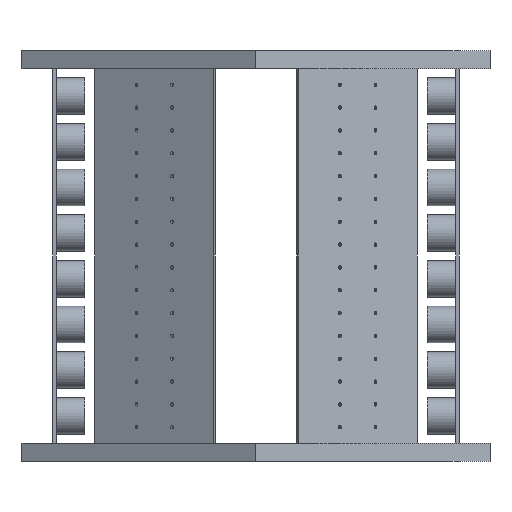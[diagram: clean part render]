
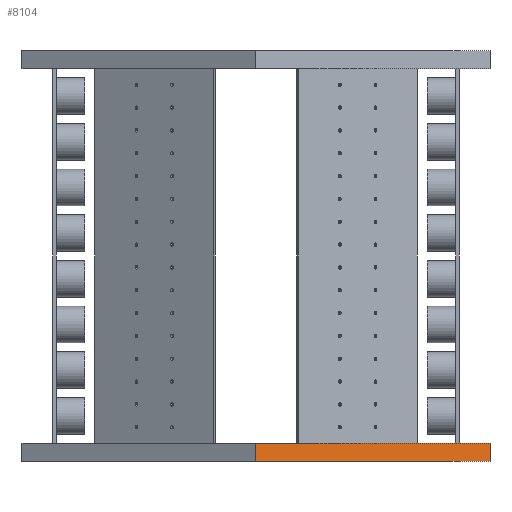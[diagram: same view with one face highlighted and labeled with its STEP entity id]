
A CAD part, front view. The second image highlights one B-rep face of the part: STEP entity #8104.
In plain terms, the highlighted planar face has unit normal (0.5, -0.866, 0).
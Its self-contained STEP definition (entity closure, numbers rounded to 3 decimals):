
#6270 = PLANE('',#6271);
#6271 = AXIS2_PLACEMENT_3D('',#6272,#6273,#6274);
#6272 = CARTESIAN_POINT('',(102.5,-59.178,0.));
#6273 = DIRECTION('',(-1.,0.,0.));
#6274 = DIRECTION('',(0.,1.,0.));
#6298 = PLANE('',#6299);
#6299 = AXIS2_PLACEMENT_3D('',#6300,#6301,#6302);
#6300 = CARTESIAN_POINT('',(0.,0.,8.)
  );
#6301 = DIRECTION('',(0.,0.,1.));
#6302 = DIRECTION('',(1.,0.,-0.));
#6352 = PLANE('',#6353);
#6353 = AXIS2_PLACEMENT_3D('',#6354,#6355,#6356);
#6354 = CARTESIAN_POINT('',(0.,0.,0.)
  );
#6355 = DIRECTION('',(0.,0.,1.));
#6356 = DIRECTION('',(1.,0.,-0.));
#6367 = EDGE_CURVE('',#6368,#6370,#6372,.T.);
#6368 = VERTEX_POINT('',#6369);
#6369 = CARTESIAN_POINT('',(102.5,-59.178,0.));
#6370 = VERTEX_POINT('',#6371);
#6371 = CARTESIAN_POINT('',(102.5,-59.178,8.));
#6372 = SURFACE_CURVE('',#6373,(#6377,#6384),.PCURVE_S1.);
#6373 = LINE('',#6374,#6375);
#6374 = CARTESIAN_POINT('',(102.5,-59.178,0.));
#6375 = VECTOR('',#6376,1.);
#6376 = DIRECTION('',(0.,0.,1.));
#6377 = PCURVE('',#6270,#6378);
#6378 = DEFINITIONAL_REPRESENTATION('',(#6379),#6383);
#6379 = LINE('',#6380,#6381);
#6380 = CARTESIAN_POINT('',(0.,0.));
#6381 = VECTOR('',#6382,1.);
#6382 = DIRECTION('',(0.,-1.));
#6383 = ( GEOMETRIC_REPRESENTATION_CONTEXT(2) 
PARAMETRIC_REPRESENTATION_CONTEXT() REPRESENTATION_CONTEXT('2D SPACE',''
  ) );
#6384 = PCURVE('',#6385,#6390);
#6385 = PLANE('',#6386);
#6386 = AXIS2_PLACEMENT_3D('',#6387,#6388,#6389);
#6387 = CARTESIAN_POINT('',(0.,-118.357,0.));
#6388 = DIRECTION('',(-0.5,0.866,0.));
#6389 = DIRECTION('',(0.866,0.5,0.));
#6390 = DEFINITIONAL_REPRESENTATION('',(#6391),#6395);
#6391 = LINE('',#6392,#6393);
#6392 = CARTESIAN_POINT('',(118.357,0.));
#6393 = VECTOR('',#6394,1.);
#6394 = DIRECTION('',(0.,-1.));
#6395 = ( GEOMETRIC_REPRESENTATION_CONTEXT(2) 
PARAMETRIC_REPRESENTATION_CONTEXT() REPRESENTATION_CONTEXT('2D SPACE',''
  ) );
#6545 = VERTEX_POINT('',#6546);
#6546 = CARTESIAN_POINT('',(0.,-118.357,0.));
#6560 = PLANE('',#6561);
#6561 = AXIS2_PLACEMENT_3D('',#6562,#6563,#6564);
#6562 = CARTESIAN_POINT('',(-102.5,-59.178,0.));
#6563 = DIRECTION('',(0.5,0.866,-0.));
#6564 = DIRECTION('',(0.866,-0.5,0.));
#6572 = EDGE_CURVE('',#6545,#6368,#6573,.T.);
#6573 = SURFACE_CURVE('',#6574,(#6578,#6585),.PCURVE_S1.);
#6574 = LINE('',#6575,#6576);
#6575 = CARTESIAN_POINT('',(0.,-118.357,0.));
#6576 = VECTOR('',#6577,1.);
#6577 = DIRECTION('',(0.866,0.5,0.));
#6578 = PCURVE('',#6352,#6579);
#6579 = DEFINITIONAL_REPRESENTATION('',(#6580),#6584);
#6580 = LINE('',#6581,#6582);
#6581 = CARTESIAN_POINT('',(0.,-118.357));
#6582 = VECTOR('',#6583,1.);
#6583 = DIRECTION('',(0.866,0.5));
#6584 = ( GEOMETRIC_REPRESENTATION_CONTEXT(2) 
PARAMETRIC_REPRESENTATION_CONTEXT() REPRESENTATION_CONTEXT('2D SPACE',''
  ) );
#6585 = PCURVE('',#6385,#6586);
#6586 = DEFINITIONAL_REPRESENTATION('',(#6587),#6591);
#6587 = LINE('',#6588,#6589);
#6588 = CARTESIAN_POINT('',(0.,0.));
#6589 = VECTOR('',#6590,1.);
#6590 = DIRECTION('',(1.,0.));
#6591 = ( GEOMETRIC_REPRESENTATION_CONTEXT(2) 
PARAMETRIC_REPRESENTATION_CONTEXT() REPRESENTATION_CONTEXT('2D SPACE',''
  ) );
#7417 = VERTEX_POINT('',#7418);
#7418 = CARTESIAN_POINT('',(0.,-118.357,8.));
#7439 = EDGE_CURVE('',#7417,#6370,#7440,.T.);
#7440 = SURFACE_CURVE('',#7441,(#7445,#7452),.PCURVE_S1.);
#7441 = LINE('',#7442,#7443);
#7442 = CARTESIAN_POINT('',(0.,-118.357,8.));
#7443 = VECTOR('',#7444,1.);
#7444 = DIRECTION('',(0.866,0.5,0.));
#7445 = PCURVE('',#6298,#7446);
#7446 = DEFINITIONAL_REPRESENTATION('',(#7447),#7451);
#7447 = LINE('',#7448,#7449);
#7448 = CARTESIAN_POINT('',(0.,-118.357));
#7449 = VECTOR('',#7450,1.);
#7450 = DIRECTION('',(0.866,0.5));
#7451 = ( GEOMETRIC_REPRESENTATION_CONTEXT(2) 
PARAMETRIC_REPRESENTATION_CONTEXT() REPRESENTATION_CONTEXT('2D SPACE',''
  ) );
#7452 = PCURVE('',#6385,#7453);
#7453 = DEFINITIONAL_REPRESENTATION('',(#7454),#7458);
#7454 = LINE('',#7455,#7456);
#7455 = CARTESIAN_POINT('',(0.,-8.));
#7456 = VECTOR('',#7457,1.);
#7457 = DIRECTION('',(1.,0.));
#7458 = ( GEOMETRIC_REPRESENTATION_CONTEXT(2) 
PARAMETRIC_REPRESENTATION_CONTEXT() REPRESENTATION_CONTEXT('2D SPACE',''
  ) );
#8104 = ADVANCED_FACE('',(#8105),#6385,.F.);
#8105 = FACE_BOUND('',#8106,.F.);
#8106 = EDGE_LOOP('',(#8107,#8128,#8129,#8130));
#8107 = ORIENTED_EDGE('',*,*,#8108,.T.);
#8108 = EDGE_CURVE('',#6545,#7417,#8109,.T.);
#8109 = SURFACE_CURVE('',#8110,(#8114,#8121),.PCURVE_S1.);
#8110 = LINE('',#8111,#8112);
#8111 = CARTESIAN_POINT('',(0.,-118.357,0.));
#8112 = VECTOR('',#8113,1.);
#8113 = DIRECTION('',(0.,0.,1.));
#8114 = PCURVE('',#6385,#8115);
#8115 = DEFINITIONAL_REPRESENTATION('',(#8116),#8120);
#8116 = LINE('',#8117,#8118);
#8117 = CARTESIAN_POINT('',(0.,0.));
#8118 = VECTOR('',#8119,1.);
#8119 = DIRECTION('',(0.,-1.));
#8120 = ( GEOMETRIC_REPRESENTATION_CONTEXT(2) 
PARAMETRIC_REPRESENTATION_CONTEXT() REPRESENTATION_CONTEXT('2D SPACE',''
  ) );
#8121 = PCURVE('',#6560,#8122);
#8122 = DEFINITIONAL_REPRESENTATION('',(#8123),#8127);
#8123 = LINE('',#8124,#8125);
#8124 = CARTESIAN_POINT('',(118.357,0.));
#8125 = VECTOR('',#8126,1.);
#8126 = DIRECTION('',(0.,-1.));
#8127 = ( GEOMETRIC_REPRESENTATION_CONTEXT(2) 
PARAMETRIC_REPRESENTATION_CONTEXT() REPRESENTATION_CONTEXT('2D SPACE',''
  ) );
#8128 = ORIENTED_EDGE('',*,*,#7439,.T.);
#8129 = ORIENTED_EDGE('',*,*,#6367,.F.);
#8130 = ORIENTED_EDGE('',*,*,#6572,.F.);
